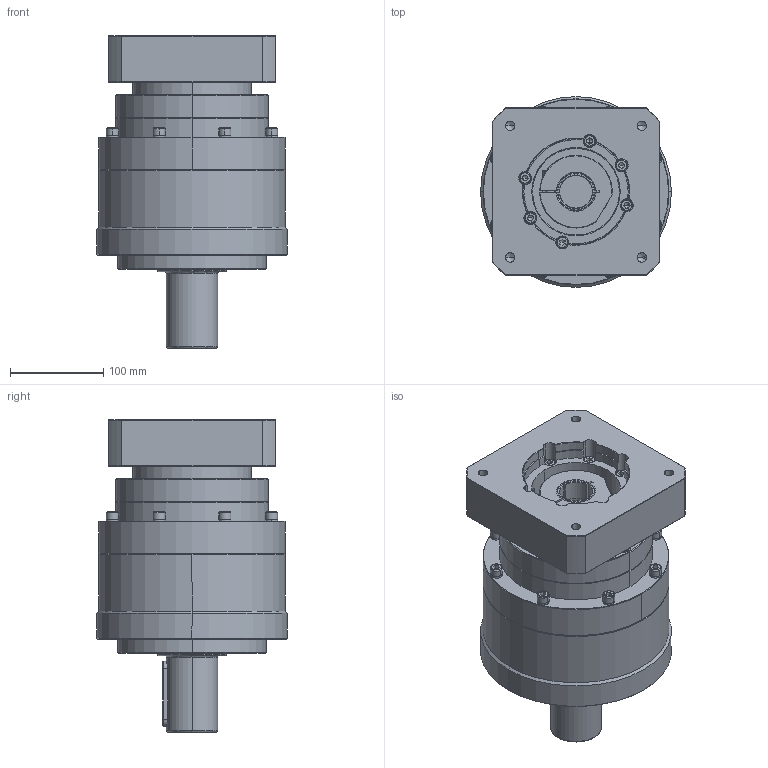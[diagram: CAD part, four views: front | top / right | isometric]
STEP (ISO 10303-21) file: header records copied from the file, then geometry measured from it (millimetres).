
FILE_DESCRIPTION (( 'STEP AP214' ), '1' );
FILE_NAME ('VRL-205-L2-S2-P1 35-114.3-200-M12.STEP', '2023-08-21T02:08:36', ( '微软用户' ), ( '微软中国' ), 'SwSTEP 2.0', 'SolidWorks 2018', '' );
FILE_SCHEMA (( 'AUTOMOTIVE_DESIGN' ));
Length unit declared in the file: millimetre
Products named in the file (1): VRL-205-L2-S2-P1 35-114.3-200-M12
Bounding box: 205 x 205 x 335.5 mm (x, y, z)
Volume: 6796101.3 mm3; surface area: 377065.3 mm2
Topology: 1 solids, 21 shells, 1347 faces, 3442 edges, 2157 vertices
Faces by surface type: plane 561, cylinder 544, cone 174, bspline 68
Entity records: 42417 total; most frequent: CARTESIAN_POINT 9502, DIRECTION 7287, ORIENTED_EDGE 6744, EDGE_CURVE 3372, AXIS2_PLACEMENT_3D 2870, VERTEX_POINT 2157, CIRCLE 1590, LINE 1547
